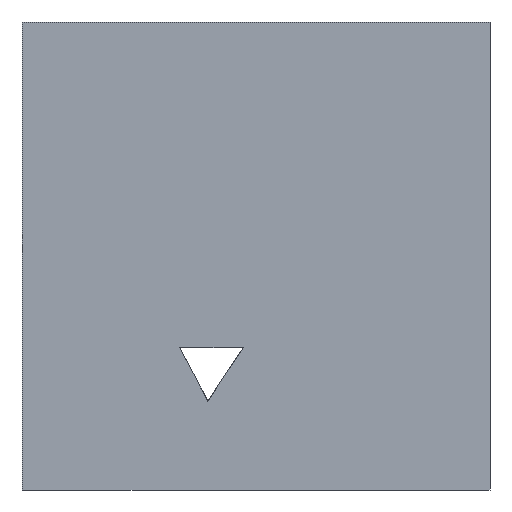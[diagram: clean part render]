
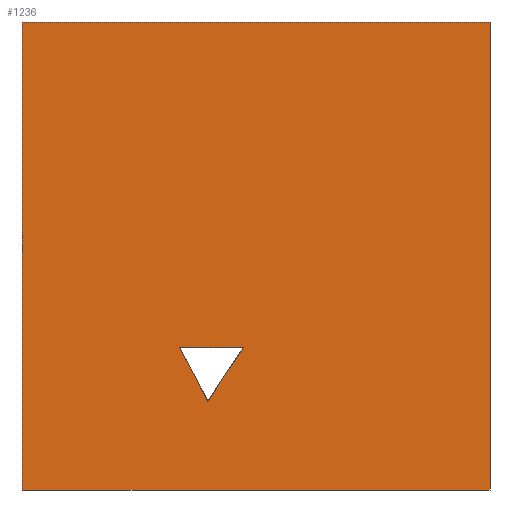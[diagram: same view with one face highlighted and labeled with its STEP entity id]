
A CAD part, front view. The second image highlights one B-rep face of the part: STEP entity #1236.
In plain terms, the highlighted planar face has unit normal (0, -1, 0).
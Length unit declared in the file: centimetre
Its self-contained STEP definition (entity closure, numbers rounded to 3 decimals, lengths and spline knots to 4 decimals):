
#5 = LINE ( 'NONE', #299, #1056 ) ;
#28 = DIRECTION ( 'NONE',  ( -0.471, 0., 0.882 ) ) ;
#30 = VECTOR ( 'NONE', #1155, 100. ) ;
#92 = LINE ( 'NONE', #1103, #542 ) ;
#168 = LINE ( 'NONE', #1329, #1371 ) ;
#185 = CARTESIAN_POINT ( 'NONE',  ( 397.3293, 0., 190.0543 ) ) ;
#201 = EDGE_CURVE ( 'NONE', #613, #1113, #840, .T. ) ;
#221 = ORIENTED_EDGE ( 'NONE', *, *, #655, .F. ) ;
#283 = EDGE_CURVE ( 'NONE', #1703, #1218, #1010, .T. ) ;
#299 = CARTESIAN_POINT ( 'NONE',  ( 1000., 0., 1000. ) ) ;
#354 = LINE ( 'NONE', #374, #567 ) ;
#373 = DIRECTION ( 'NONE',  ( 0., 0., 1. ) ) ;
#374 = CARTESIAN_POINT ( 'NONE',  ( 0., 0., 0. ) ) ;
#376 = VERTEX_POINT ( 'NONE', #713 ) ;
#462 = ORIENTED_EDGE ( 'NONE', *, *, #812, .T. ) ;
#463 = ORIENTED_EDGE ( 'NONE', *, *, #978, .F. ) ;
#525 = VERTEX_POINT ( 'NONE', #1398 ) ;
#542 = VECTOR ( 'NONE', #1247, 100. ) ;
#566 = VECTOR ( 'NONE', #737, 100. ) ;
#567 = VECTOR ( 'NONE', #652, 100. ) ;
#613 = VERTEX_POINT ( 'NONE', #1054 ) ;
#636 = ORIENTED_EDGE ( 'NONE', *, *, #201, .T. ) ;
#652 = DIRECTION ( 'NONE',  ( 1., 0., 0. ) ) ;
#655 = EDGE_CURVE ( 'NONE', #525, #958, #5, .T. ) ;
#656 = CARTESIAN_POINT ( 'NONE',  ( 1000., 0., 0. ) ) ;
#713 = CARTESIAN_POINT ( 'NONE',  ( 336.6925, 0., 303.7663 ) ) ;
#737 = DIRECTION ( 'NONE',  ( 0., 0., -1. ) ) ;
#812 = EDGE_CURVE ( 'NONE', #1218, #958, #354, .T. ) ;
#840 = LINE ( 'NONE', #1288, #960 ) ;
#958 = VERTEX_POINT ( 'NONE', #656 ) ;
#960 = VECTOR ( 'NONE', #1818, 100. ) ;
#978 = EDGE_CURVE ( 'NONE', #1703, #525, #92, .T. ) ;
#988 = EDGE_LOOP ( 'NONE', ( #636, #1300, #1523 ) ) ;
#990 = LINE ( 'NONE', #1564, #30 ) ;
#1010 = LINE ( 'NONE', #1030, #566 ) ;
#1012 = CARTESIAN_POINT ( 'NONE',  ( 0., 0., 1000. ) ) ;
#1030 = CARTESIAN_POINT ( 'NONE',  ( 0., 0., 1000. ) ) ;
#1054 = CARTESIAN_POINT ( 'NONE',  ( 473.0107, 0., 303.7663 ) ) ;
#1056 = VECTOR ( 'NONE', #1342, 100. ) ;
#1098 = FACE_BOUND ( 'NONE', #988, .T. ) ;
#1103 = CARTESIAN_POINT ( 'NONE',  ( 0., 0., 1000. ) ) ;
#1107 = CARTESIAN_POINT ( 'NONE',  ( 0., 0., 1000. ) ) ;
#1113 = VERTEX_POINT ( 'NONE', #185 ) ;
#1155 = DIRECTION ( 'NONE',  ( 1., 0., 0. ) ) ;
#1218 = VERTEX_POINT ( 'NONE', #1406 ) ;
#1236 = ADVANCED_FACE ( 'NONE', ( #1098, #1673 ), #1548, .F. ) ;
#1247 = DIRECTION ( 'NONE',  ( 1., 0., 0. ) ) ;
#1288 = CARTESIAN_POINT ( 'NONE',  ( 397.3293, 0., 190.0543 ) ) ;
#1293 = EDGE_CURVE ( 'NONE', #376, #613, #990, .T. ) ;
#1300 = ORIENTED_EDGE ( 'NONE', *, *, #1779, .T. ) ;
#1329 = CARTESIAN_POINT ( 'NONE',  ( 336.6925, 0., 303.7663 ) ) ;
#1342 = DIRECTION ( 'NONE',  ( 0., 0., -1. ) ) ;
#1371 = VECTOR ( 'NONE', #28, 100. ) ;
#1398 = CARTESIAN_POINT ( 'NONE',  ( 1000., 0., 1000. ) ) ;
#1406 = CARTESIAN_POINT ( 'NONE',  ( 0., 0., 0. ) ) ;
#1523 = ORIENTED_EDGE ( 'NONE', *, *, #1293, .T. ) ;
#1548 = PLANE ( 'NONE',  #1720 ) ;
#1564 = CARTESIAN_POINT ( 'NONE',  ( 473.0107, 0., 303.7663 ) ) ;
#1621 = EDGE_LOOP ( 'NONE', ( #462, #221, #463, #1627 ) ) ;
#1627 = ORIENTED_EDGE ( 'NONE', *, *, #283, .T. ) ;
#1673 = FACE_OUTER_BOUND ( 'NONE', #1621, .T. ) ;
#1681 = DIRECTION ( 'NONE',  ( 0., 1., 0. ) ) ;
#1703 = VERTEX_POINT ( 'NONE', #1012 ) ;
#1720 = AXIS2_PLACEMENT_3D ( 'NONE', #1107, #1681, #373 ) ;
#1779 = EDGE_CURVE ( 'NONE', #1113, #376, #168, .T. ) ;
#1818 = DIRECTION ( 'NONE',  ( -0.554, 0., -0.832 ) ) ;
